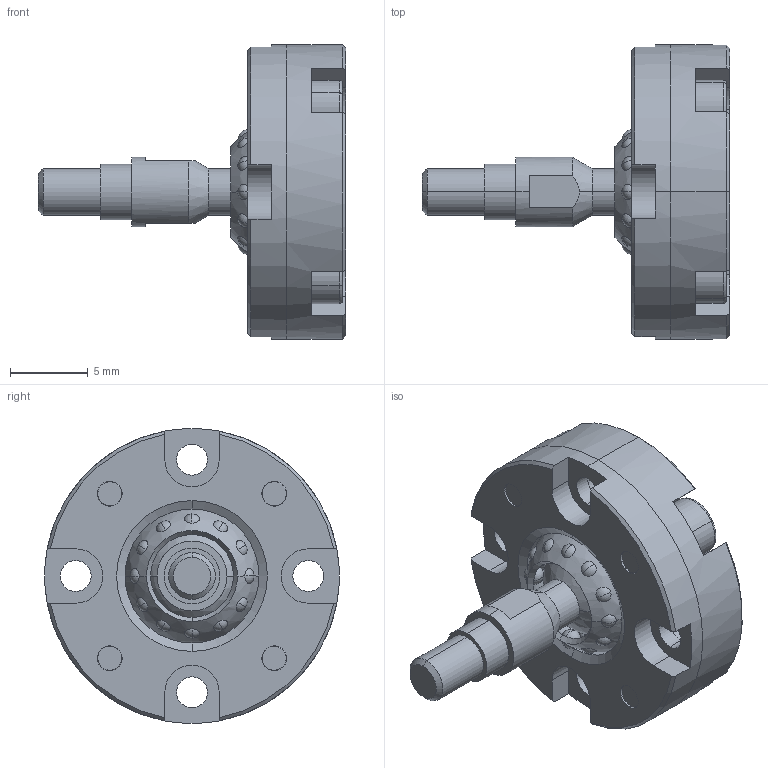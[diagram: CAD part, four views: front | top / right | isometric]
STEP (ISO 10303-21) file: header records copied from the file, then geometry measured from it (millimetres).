
FILE_DESCRIPTION (( 'STEP AP203' ), '1' );
FILE_NAME ('SR JOINT - SRJ004C.STEP', '2010-06-01T19:27:38', ( 'render' ), ( '' ), 'SwSTEP 2.0', 'SolidWorks 2009', '' );
FILE_SCHEMA (( 'CONFIG_CONTROL_DESIGN' ));
Length unit declared in the file: millimetre
Products named in the file (1): SR JOINT - SRJ004C
Bounding box: 19.8 x 19 x 19 mm (x, y, z)
Surface area: 2312.6 mm2 (no closed solid volume)
Topology: 0 solids, 12 shells, 323 faces, 848 edges, 571 vertices
Faces by surface type: sphere 138, plane 87, cylinder 55, cone 35, torus 8
Entity records: 10205 total; most frequent: DIRECTION 2002, CARTESIAN_POINT 1771, ORIENTED_EDGE 1509, AXIS2_PLACEMENT_3D 881, EDGE_CURVE 817, VERTEX_POINT 558, CIRCLE 557, EDGE_LOOP 436
